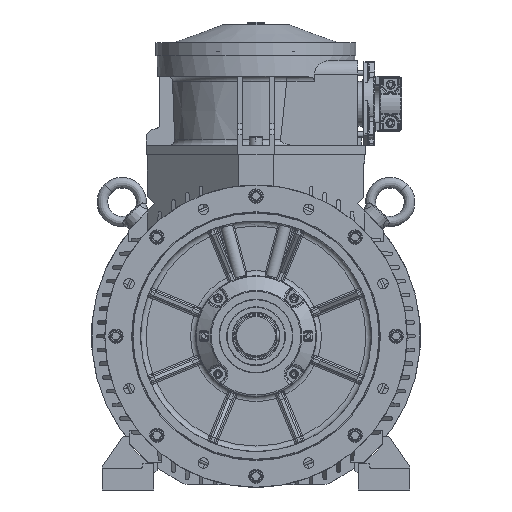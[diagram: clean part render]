
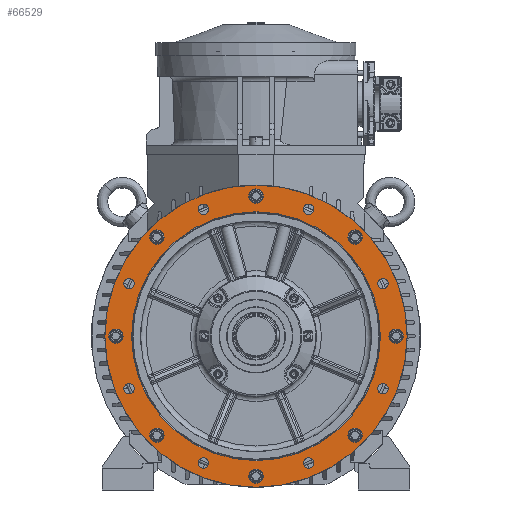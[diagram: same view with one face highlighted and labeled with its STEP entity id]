
A CAD part, left-side view. The second image highlights one B-rep face of the part: STEP entity #66529.
In plain terms, the highlighted planar face has unit normal (-1, 0, 0).
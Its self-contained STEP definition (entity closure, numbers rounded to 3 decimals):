
#1406=PLANE('',#70544);
#9541=CIRCLE('',#70532,275.);
#9542=CIRCLE('',#70542,226.4);
#9544=CIRCLE('',#70545,9.5);
#9545=CIRCLE('',#70546,9.5);
#9546=CIRCLE('',#70547,9.5);
#9547=CIRCLE('',#70548,9.5);
#9548=CIRCLE('',#70549,9.5);
#9549=CIRCLE('',#70550,9.5);
#9550=CIRCLE('',#70551,9.5);
#9551=CIRCLE('',#70552,9.5);
#9552=CIRCLE('',#70553,13.);
#9553=CIRCLE('',#70554,13.);
#9554=CIRCLE('',#70555,13.);
#9555=CIRCLE('',#70556,13.);
#9556=CIRCLE('',#70557,13.);
#9557=CIRCLE('',#70558,13.);
#9558=CIRCLE('',#70559,13.);
#9559=CIRCLE('',#70560,13.);
#17412=ORIENTED_EDGE('',*,*,#27996,.F.);
#17413=ORIENTED_EDGE('',*,*,#27997,.F.);
#17414=ORIENTED_EDGE('',*,*,#27998,.F.);
#17415=ORIENTED_EDGE('',*,*,#27999,.F.);
#17416=ORIENTED_EDGE('',*,*,#28000,.F.);
#17417=ORIENTED_EDGE('',*,*,#28001,.F.);
#17418=ORIENTED_EDGE('',*,*,#28002,.F.);
#17419=ORIENTED_EDGE('',*,*,#28003,.F.);
#17420=ORIENTED_EDGE('',*,*,#28004,.T.);
#17421=ORIENTED_EDGE('',*,*,#28005,.T.);
#17422=ORIENTED_EDGE('',*,*,#28006,.T.);
#17423=ORIENTED_EDGE('',*,*,#28007,.T.);
#17424=ORIENTED_EDGE('',*,*,#28008,.T.);
#17425=ORIENTED_EDGE('',*,*,#28009,.T.);
#17426=ORIENTED_EDGE('',*,*,#28010,.T.);
#17427=ORIENTED_EDGE('',*,*,#28011,.T.);
#17428=ORIENTED_EDGE('',*,*,#27992,.T.);
#17429=ORIENTED_EDGE('',*,*,#27994,.F.);
#27992=EDGE_CURVE('',#33707,#33707,#9541,.T.);
#27994=EDGE_CURVE('',#33709,#33709,#9542,.T.);
#27996=EDGE_CURVE('',#33711,#33711,#9544,.T.);
#27997=EDGE_CURVE('',#33712,#33712,#9545,.T.);
#27998=EDGE_CURVE('',#33713,#33713,#9546,.T.);
#27999=EDGE_CURVE('',#33714,#33714,#9547,.T.);
#28000=EDGE_CURVE('',#33715,#33715,#9548,.T.);
#28001=EDGE_CURVE('',#33716,#33716,#9549,.T.);
#28002=EDGE_CURVE('',#33717,#33717,#9550,.T.);
#28003=EDGE_CURVE('',#33718,#33718,#9551,.T.);
#28004=EDGE_CURVE('',#33719,#33719,#9552,.T.);
#28005=EDGE_CURVE('',#33720,#33720,#9553,.T.);
#28006=EDGE_CURVE('',#33721,#33721,#9554,.T.);
#28007=EDGE_CURVE('',#33722,#33722,#9555,.T.);
#28008=EDGE_CURVE('',#33723,#33723,#9556,.T.);
#28009=EDGE_CURVE('',#33724,#33724,#9557,.T.);
#28010=EDGE_CURVE('',#33725,#33725,#9558,.T.);
#28011=EDGE_CURVE('',#33726,#33726,#9559,.T.);
#33707=VERTEX_POINT('',#96781);
#33709=VERTEX_POINT('',#96804);
#33711=VERTEX_POINT('',#96809);
#33712=VERTEX_POINT('',#96811);
#33713=VERTEX_POINT('',#96813);
#33714=VERTEX_POINT('',#96815);
#33715=VERTEX_POINT('',#96817);
#33716=VERTEX_POINT('',#96819);
#33717=VERTEX_POINT('',#96821);
#33718=VERTEX_POINT('',#96823);
#33719=VERTEX_POINT('',#96825);
#33720=VERTEX_POINT('',#96827);
#33721=VERTEX_POINT('',#96829);
#33722=VERTEX_POINT('',#96831);
#33723=VERTEX_POINT('',#96833);
#33724=VERTEX_POINT('',#96835);
#33725=VERTEX_POINT('',#96837);
#33726=VERTEX_POINT('',#96839);
#38384=EDGE_LOOP('',(#17412));
#38385=EDGE_LOOP('',(#17413));
#38386=EDGE_LOOP('',(#17414));
#38387=EDGE_LOOP('',(#17415));
#38388=EDGE_LOOP('',(#17416));
#38389=EDGE_LOOP('',(#17417));
#38390=EDGE_LOOP('',(#17418));
#38391=EDGE_LOOP('',(#17419));
#38392=EDGE_LOOP('',(#17420));
#38393=EDGE_LOOP('',(#17421));
#38394=EDGE_LOOP('',(#17422));
#38395=EDGE_LOOP('',(#17423));
#38396=EDGE_LOOP('',(#17424));
#38397=EDGE_LOOP('',(#17425));
#38398=EDGE_LOOP('',(#17426));
#38399=EDGE_LOOP('',(#17427));
#38400=EDGE_LOOP('',(#17428));
#38401=EDGE_LOOP('',(#17429));
#41871=FACE_BOUND('',#38384,.T.);
#41872=FACE_BOUND('',#38385,.T.);
#41873=FACE_BOUND('',#38386,.T.);
#41874=FACE_BOUND('',#38387,.T.);
#41875=FACE_BOUND('',#38388,.T.);
#41876=FACE_BOUND('',#38389,.T.);
#41877=FACE_BOUND('',#38390,.T.);
#41878=FACE_BOUND('',#38391,.T.);
#41879=FACE_BOUND('',#38392,.T.);
#41880=FACE_BOUND('',#38393,.T.);
#41881=FACE_BOUND('',#38394,.T.);
#41882=FACE_BOUND('',#38395,.T.);
#41883=FACE_BOUND('',#38396,.T.);
#41884=FACE_BOUND('',#38397,.T.);
#41885=FACE_BOUND('',#38398,.T.);
#41886=FACE_BOUND('',#38399,.T.);
#41887=FACE_BOUND('',#38400,.T.);
#41888=FACE_BOUND('',#38401,.T.);
#66529=ADVANCED_FACE('',(#41871,#41872,#41873,#41874,#41875,#41876,#41877,
#41878,#41879,#41880,#41881,#41882,#41883,#41884,#41885,#41886,#41887,#41888),
#1406,.T.);
#70532=AXIS2_PLACEMENT_3D('',#96780,#79865,#79866);
#70542=AXIS2_PLACEMENT_3D('',#96803,#79885,#79886);
#70544=AXIS2_PLACEMENT_3D('',#96807,#79889,#79890);
#70545=AXIS2_PLACEMENT_3D('',#96808,#79891,#79892);
#70546=AXIS2_PLACEMENT_3D('',#96810,#79893,#79894);
#70547=AXIS2_PLACEMENT_3D('',#96812,#79895,#79896);
#70548=AXIS2_PLACEMENT_3D('',#96814,#79897,#79898);
#70549=AXIS2_PLACEMENT_3D('',#96816,#79899,#79900);
#70550=AXIS2_PLACEMENT_3D('',#96818,#79901,#79902);
#70551=AXIS2_PLACEMENT_3D('',#96820,#79903,#79904);
#70552=AXIS2_PLACEMENT_3D('',#96822,#79905,#79906);
#70553=AXIS2_PLACEMENT_3D('',#96824,#79907,#79908);
#70554=AXIS2_PLACEMENT_3D('',#96826,#79909,#79910);
#70555=AXIS2_PLACEMENT_3D('',#96828,#79911,#79912);
#70556=AXIS2_PLACEMENT_3D('',#96830,#79913,#79914);
#70557=AXIS2_PLACEMENT_3D('',#96832,#79915,#79916);
#70558=AXIS2_PLACEMENT_3D('',#96834,#79917,#79918);
#70559=AXIS2_PLACEMENT_3D('',#96836,#79919,#79920);
#70560=AXIS2_PLACEMENT_3D('',#96838,#79921,#79922);
#79865=DIRECTION('',(-1.,0.,0.));
#79866=DIRECTION('',(0.,0.,1.));
#79885=DIRECTION('',(-1.,0.,0.));
#79886=DIRECTION('',(0.,0.,1.));
#79889=DIRECTION('',(-1.,0.,0.));
#79890=DIRECTION('',(0.,0.,1.));
#79891=DIRECTION('',(-1.,0.,0.));
#79892=DIRECTION('',(0.,-1.,0.));
#79893=DIRECTION('',(-1.,0.,0.));
#79894=DIRECTION('',(0.,-1.,0.));
#79895=DIRECTION('',(-1.,0.,0.));
#79896=DIRECTION('',(0.,-1.,0.));
#79897=DIRECTION('',(-1.,0.,0.));
#79898=DIRECTION('',(0.,-1.,0.));
#79899=DIRECTION('',(-1.,0.,0.));
#79900=DIRECTION('',(0.,-1.,0.));
#79901=DIRECTION('',(-1.,0.,0.));
#79902=DIRECTION('',(0.,-1.,0.));
#79903=DIRECTION('',(-1.,0.,0.));
#79904=DIRECTION('',(0.,-1.,0.));
#79905=DIRECTION('',(-1.,0.,0.));
#79906=DIRECTION('',(0.,-1.,0.));
#79907=DIRECTION('',(1.,0.,0.));
#79908=DIRECTION('',(0.,0.,1.));
#79909=DIRECTION('',(1.,0.,0.));
#79910=DIRECTION('',(0.,0.,1.));
#79911=DIRECTION('',(1.,0.,0.));
#79912=DIRECTION('',(0.,0.,1.));
#79913=DIRECTION('',(1.,0.,0.));
#79914=DIRECTION('',(0.,0.,1.));
#79915=DIRECTION('',(1.,0.,0.));
#79916=DIRECTION('',(0.,0.,1.));
#79917=DIRECTION('',(1.,0.,0.));
#79918=DIRECTION('',(0.,0.,1.));
#79919=DIRECTION('',(1.,0.,0.));
#79920=DIRECTION('',(0.,0.,1.));
#79921=DIRECTION('',(1.,0.,0.));
#79922=DIRECTION('',(0.,0.,1.));
#96780=CARTESIAN_POINT('',(-64.,0.,0.));
#96781=CARTESIAN_POINT('',(-64.,0.,275.));
#96803=CARTESIAN_POINT('',(-64.,0.,0.));
#96804=CARTESIAN_POINT('',(-64.,0.,226.4));
#96807=CARTESIAN_POINT('',(-64.,0.,226.4));
#96808=CARTESIAN_POINT('',(-64.,-230.97,-95.671));
#96809=CARTESIAN_POINT('',(-64.,-240.47,-95.671));
#96810=CARTESIAN_POINT('',(-64.,-95.671,-230.97));
#96811=CARTESIAN_POINT('',(-64.,-105.171,-230.97));
#96812=CARTESIAN_POINT('',(-64.,95.671,-230.97));
#96813=CARTESIAN_POINT('',(-64.,86.171,-230.97));
#96814=CARTESIAN_POINT('',(-64.,230.97,-95.671));
#96815=CARTESIAN_POINT('',(-64.,221.47,-95.671));
#96816=CARTESIAN_POINT('',(-64.,230.97,95.671));
#96817=CARTESIAN_POINT('',(-64.,221.47,95.671));
#96818=CARTESIAN_POINT('',(-64.,95.671,230.97));
#96819=CARTESIAN_POINT('',(-64.,86.171,230.97));
#96820=CARTESIAN_POINT('',(-64.,-95.671,230.97));
#96821=CARTESIAN_POINT('',(-64.,-105.171,230.97));
#96822=CARTESIAN_POINT('',(-64.,-230.97,95.671));
#96823=CARTESIAN_POINT('',(-64.,-240.47,95.671));
#96824=CARTESIAN_POINT('',(-64.,-180.312,-180.312));
#96825=CARTESIAN_POINT('',(-64.,-180.312,-167.312));
#96826=CARTESIAN_POINT('',(-64.,0.,-255.));
#96827=CARTESIAN_POINT('',(-64.,0.,-242.));
#96828=CARTESIAN_POINT('',(-64.,180.312,-180.312));
#96829=CARTESIAN_POINT('',(-64.,180.312,-167.312));
#96830=CARTESIAN_POINT('',(-64.,255.,0.));
#96831=CARTESIAN_POINT('',(-64.,255.,13.));
#96832=CARTESIAN_POINT('',(-64.,180.312,180.312));
#96833=CARTESIAN_POINT('',(-64.,180.312,193.312));
#96834=CARTESIAN_POINT('',(-64.,0.,255.));
#96835=CARTESIAN_POINT('',(-64.,0.,268.));
#96836=CARTESIAN_POINT('',(-64.,-180.312,180.312));
#96837=CARTESIAN_POINT('',(-64.,-180.312,193.312));
#96838=CARTESIAN_POINT('',(-64.,-255.,0.));
#96839=CARTESIAN_POINT('',(-64.,-255.,13.));
